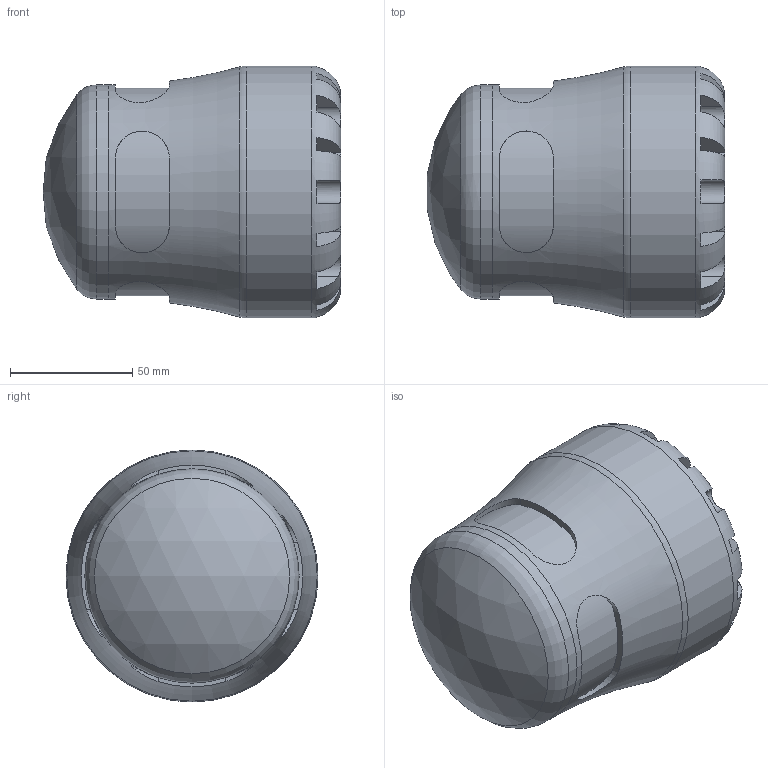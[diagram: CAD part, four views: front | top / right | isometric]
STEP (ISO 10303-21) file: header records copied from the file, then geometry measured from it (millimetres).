
FILE_DESCRIPTION(/* description */ ('PLASSON G-PLASS END CAP 63'),/* implementation_level */ '2;1');
FILE_NAME(/* name */ 'C:\Users\Kirill\Dropbox\99-16-3568-Processing\S1\151200\stp\151200063.stp',/* time_stamp */ '2023-10-21T22:52:24+04:00',/* author */ ('KIM'),/* organization */ (''),/* preprocessor_version */ 'ST-DEVELOPER v17.2',/* originating_system */ 'Autodesk Inventor 2019',/* authorisation */ '');
FILE_SCHEMA (('AUTOMOTIVE_DESIGN { 1 0 10303 214 3 1 1 }'));
Length unit declared in the file: millimetre
Products named in the file (1): 151200063
Bounding box: 121.59 x 103 x 103 mm (x, y, z)
Volume: 479358.8 mm3; surface area: 67995.7 mm2
Topology: 1 solids, 1 shells, 95 faces, 249 edges, 160 vertices
Faces by surface type: plane 57, cylinder 31, torus 4, sphere 2, cone 1
Full cylindrical faces by diameter (mm): 63 x1, 87.55 x1, 103 x1
Entity records: 3916 total; most frequent: CARTESIAN_POINT 1493, ORIENTED_EDGE 498, DIRECTION 478, EDGE_CURVE 249, AXIS2_PLACEMENT_3D 197, VERTEX_POINT 160, CIRCLE 101, EDGE_LOOP 99
